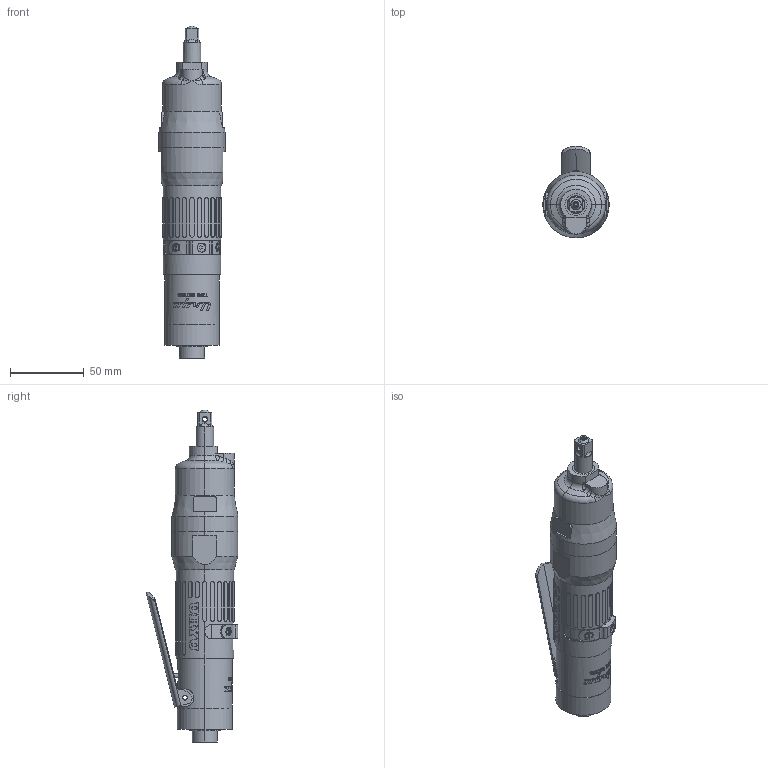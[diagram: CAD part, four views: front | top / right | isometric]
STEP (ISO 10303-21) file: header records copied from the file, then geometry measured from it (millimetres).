
FILE_DESCRIPTION (( 'STEP AP203' ), '1' );
FILE_NAME ('UAT50S.STEP', '2016-11-11T02:49:03', ( '' ), ( '' ), 'SwSTEP 2.0', 'SolidWorks 2015', '' );
FILE_SCHEMA (( 'CONFIG_CONTROL_DESIGN' ));
Length unit declared in the file: millimetre
Products named in the file (8): 1453190_UAT50S; 1281048_UAT40SD; 1612123_UAT40SD; 18D1078_UAT40SD; 1454390_UAT40SD; 18C0252_UAT40SD; UAT50S; 18A8429_UAT40SD
Assembly tree (7 placements, depth 2):
  UAT50S
    1454390_UAT40SD
    18C0252_UAT40SD
    18D1078_UAT40SD
    18A8429_UAT40SD
    1281048_UAT40SD
    1612123_UAT40SD
    1453190_UAT50S
Bounding box: 45 x 62.44 x 225.5 mm (x, y, z)
Volume: 239565.2 mm3; surface area: 52288.8 mm2
Topology: 7 solids, 7 shells, 806 faces, 2147 edges, 1415 vertices
Faces by surface type: plane 401, cylinder 275, bspline 100, cone 15, torus 13, sphere 2
Entity records: 32834 total; most frequent: CARTESIAN_POINT 13250, ORIENTED_EDGE 4286, DIRECTION 3347, EDGE_CURVE 2143, VERTEX_POINT 1415, AXIS2_PLACEMENT_3D 1153, LINE 1041, VECTOR 1041
